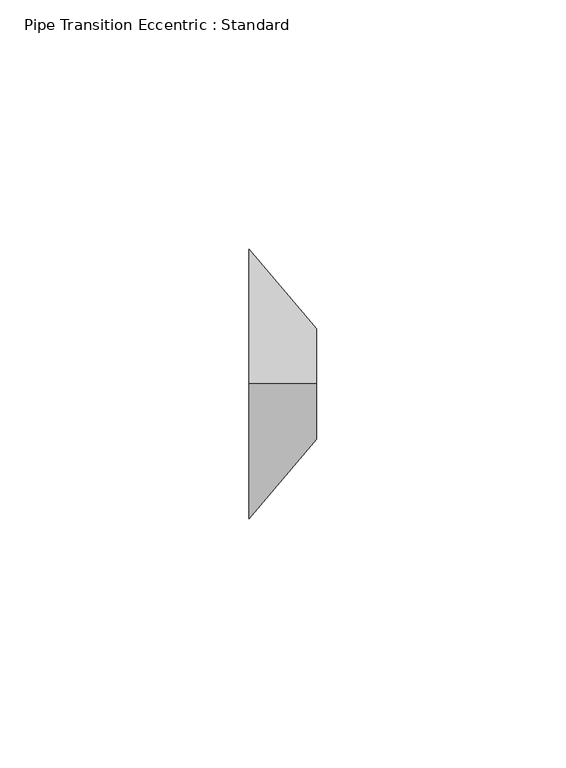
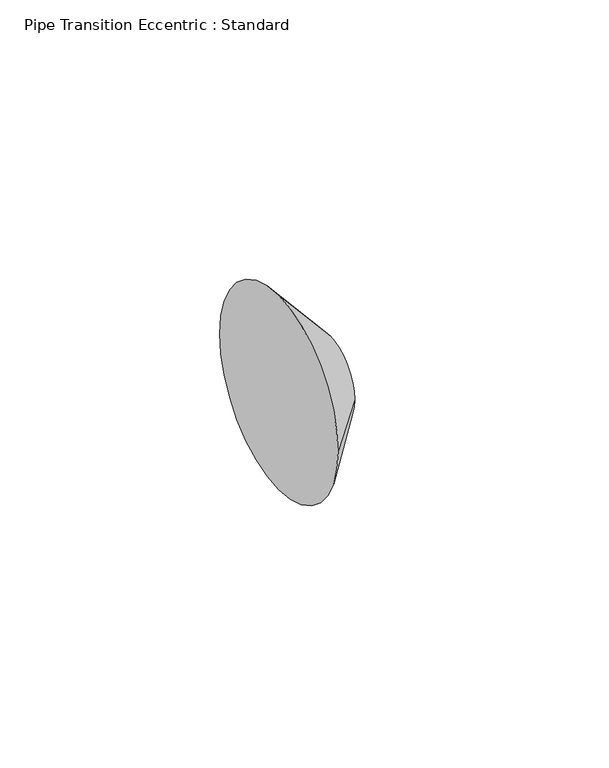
"""IFC4 building model written with IfcOpenShell, lengths in millimetres: pipe fitting geometry, Pipe Transition Eccentric : Standard."""

import ifcopenshell
import ifcopenshell.guid

model = None  # the IFC model being written
_history = None  # IfcOwnerHistory: only IFC2X3 demands one
_inside = {}  # id of a spatial element -> (the spatial element, [elements in it])
_under = {}  # id of a project, library or spatial element -> (it, [spatial elements below it])
_declared = {}  # id of a project -> (the project, [libraries it declares])
_typed = {}  # id of a type object -> (the type object, [elements of that type])
_made_of = {}  # id of a material, layer set ... -> (it, [elements and type objects made of it])


def new_model(schema):
    """Start an empty IFC model of exactly this schema.

    Asked for "IFC4X3", IfcOpenShell would pick the latest addendum, in which some entities
    have other attributes; the version numbers below select the first issue.
    IFC2X3 requires an IfcOwnerHistory on every rooted entity: one is made here for all.
    """
    global model, _history
    if schema == "IFC4X3":
        model = ifcopenshell.file(schema_version=(4, 3, 0, 0))
    else:
        model = ifcopenshell.file(schema=schema)
    _inside.clear()
    _under.clear()
    _declared.clear()
    _typed.clear()
    _made_of.clear()
    _history = None
    if model.schema == "IFC2X3":
        org = make("IfcOrganization", Name="unknown")
        user = make(
            "IfcPersonAndOrganization",
            ThePerson=make("IfcPerson", FamilyName="unknown"),
            TheOrganization=org,
        )
        app = make(
            "IfcApplication",
            ApplicationDeveloper=org,
            Version="unknown",
            ApplicationFullName="unknown",
            ApplicationIdentifier="unknown",
        )
        _history = make(
            "IfcOwnerHistory",
            OwningUser=user,
            OwningApplication=app,
            ChangeAction="ADDED",
            CreationDate=0,
        )
    return model


def make(cls, **values):
    """One entity of the class cls with the attributes given. An attribute that is None is left unset."""
    return model.create_entity(
        cls, **{name: value for name, value in values.items() if value is not None}
    )


def rooted(cls, **values):
    """An entity with a GlobalId (a new one), such as an element, a storey or a relation."""
    return make(cls, GlobalId=ifcopenshell.guid.new(), OwnerHistory=_history, **values)


def si_unit(unit_type, name, prefix=None):
    """IfcSIUnit, for example si_unit("LENGTHUNIT", "METRE", prefix="MILLI")."""
    return make("IfcSIUnit", UnitType=unit_type, Prefix=prefix, Name=name)


def assignment(units):
    """IfcUnitAssignment: the units of a project."""
    return None if units is None else make("IfcUnitAssignment", Units=units)


def point(xyz):
    """IfcCartesianPoint."""
    return None if xyz is None else make("IfcCartesianPoint", Coordinates=xyz)


def direction(xyz):
    """IfcDirection."""
    return None if xyz is None else make("IfcDirection", DirectionRatios=xyz)


def frame(location, z_axis=None, x_axis=None):
    """IfcAxis2Placement3D, a coordinate frame: its origin and axes. An axis left out is left unset."""
    return make(
        "IfcAxis2Placement3D",
        Location=point(location),
        Axis=direction(z_axis),
        RefDirection=direction(x_axis),
    )


def origin():
    """The frame at (0, 0, 0) with its axes left unset."""
    return frame((0.0, 0.0, 0.0))


def place(relative_to, where):
    """IfcLocalPlacement: puts the frame where relative to a parent placement (None: the world)."""
    return make(
        "IfcLocalPlacement", PlacementRelTo=relative_to, RelativePlacement=where
    )


def context(
    kind, dimensions, precision=None, world=None, true_north=None, identifier=None
):
    """IfcGeometricRepresentationContext, for example the 3D "Model" context."""
    return make(
        "IfcGeometricRepresentationContext",
        ContextIdentifier=identifier,
        ContextType=kind,
        CoordinateSpaceDimension=dimensions,
        Precision=precision,
        WorldCoordinateSystem=world,
        TrueNorth=true_north,
    )


def project(units=None, contexts=None):
    """IfcProject with its units and contexts."""
    return rooted(
        "IfcProject",
        Name="project",
        RepresentationContexts=contexts,
        UnitsInContext=assignment(units),
    )


def spatial(cls, under=None, at=None, **own):
    """A site, building, storey or space (cls), placed at a placement, below another one or the project."""
    s = rooted(cls, ObjectPlacement=at, **own)
    if under is not None:
        _under.setdefault(under.id(), (under, []))[1].append(s)
    return s


def polyline(points):
    """IfcPolyline through the points."""
    return make("IfcPolyline", Points=[point(p) for p in points])


def circle_curve(where, radius):
    """IfcCircle in the frame where."""
    return make("IfcCircle", Position=where, Radius=radius)


def shape(context_of_items, identifier, shape_type, items):
    """IfcShapeRepresentation: the items that make up one representation, for example the "Body"."""
    return make(
        "IfcShapeRepresentation",
        ContextOfItems=context_of_items,
        RepresentationIdentifier=identifier,
        RepresentationType=shape_type,
        Items=items,
    )


def source(mapping_origin, context_of_items, identifier, shape_type, items):
    """IfcRepresentationMap: a shape defined once, which mapped items show again and again."""
    return make(
        "IfcRepresentationMap",
        MappingOrigin=mapping_origin,
        MappedRepresentation=shape(context_of_items, identifier, shape_type, items),
    )


def transform(
    local_origin,
    x_axis=None,
    y_axis=None,
    z_axis=None,
    scale=None,
    scale2=None,
    scale3=None,
    uniform=True,
):
    """IfcCartesianTransformationOperator3D, or its non-uniform kind. x_axis, y_axis, z_axis: its Axis1, 2, 3."""
    if uniform:
        return make(
            "IfcCartesianTransformationOperator3D",
            Axis1=direction(x_axis),
            Axis2=direction(y_axis),
            LocalOrigin=point(local_origin),
            Scale=scale,
            Axis3=direction(z_axis),
        )
    return make(
        "IfcCartesianTransformationOperator3DnonUniform",
        Axis1=direction(x_axis),
        Axis2=direction(y_axis),
        LocalOrigin=point(local_origin),
        Scale=scale,
        Axis3=direction(z_axis),
        Scale2=scale2,
        Scale3=scale3,
    )


def mapped(mapping_source, mapping_target):
    """IfcMappedItem: shows the shape of a source again, moved by a transform."""
    return make(
        "IfcMappedItem", MappingSource=mapping_source, MappingTarget=mapping_target
    )


def made_of(thing, what):
    """Note that an element or type object is made of a material, layer set ...; save() writes the relation."""
    if what is not None:
        _made_of.setdefault(what.id(), (what, []))[1].append(thing)
    return thing


def element(
    cls,
    number,
    at=None,
    inside=None,
    cuts=None,
    type_object=None,
    material=None,
    context=None,
    identifier="Body",
    shape_type=None,
    held_by="IfcProductDefinitionShape",
    body=None,
    shapes=None,
    **own,
):
    """One element of the class cls, such as IfcWall. Its Tag is "e" and its number.

    at: its placement. inside: the storey or other place that contains it. cuts: it is an
    opening in that element (IfcRelVoidsElement). A single representation is given by context,
    identifier, shape_type and body (its items); several are given by shapes. held_by: the class
    of the entity that holds the representations. save() writes the other relations.
    """
    e = rooted(cls, Tag="e%d" % number, ObjectPlacement=at, **own)
    if body is not None:
        shapes = [shape(context, identifier, shape_type, body)]
    if shapes is not None:
        e.Representation = make(held_by, Representations=shapes)
    if inside is not None:
        _inside.setdefault(inside.id(), (inside, []))[1].append(e)
    if cuts is not None:
        rooted(
            "IfcRelVoidsElement", RelatingBuildingElement=cuts, RelatedOpeningElement=e
        )
    if type_object is not None:
        _typed.setdefault(type_object.id(), (type_object, []))[1].append(e)
    return made_of(e, material)


def aggregate(whole, parts):
    """IfcRelAggregates: a whole, such as a stair, and the parts it consists of."""
    return rooted("IfcRelAggregates", RelatingObject=whole, RelatedObjects=parts)


def save(model, path):
    """Write the relations noted so far, then the file.

    IfcRelAggregates (storeys below a building ...), IfcRelContainedInSpatialStructure (elements
    in a storey), IfcRelDefinesByType, IfcRelAssociatesMaterial and IfcRelDeclares: one each for
    every whole, place, type object, material and project.
    """
    for whole, parts in _under.values():
        aggregate(whole, parts)
    for where, things in _inside.values():
        rooted(
            "IfcRelContainedInSpatialStructure",
            RelatedElements=things,
            RelatingStructure=where,
        )
    for kind, things in _typed.values():
        rooted("IfcRelDefinesByType", RelatedObjects=things, RelatingType=kind)
    for what, things in _made_of.values():
        rooted("IfcRelAssociatesMaterial", RelatedObjects=things, RelatingMaterial=what)
    for by, libraries in _declared.values():
        rooted("IfcRelDeclares", RelatingContext=by, RelatedDefinitions=libraries)
    model.write(path)


def plane_surface(at):
    """IfcPlane: the flat surface through the origin of the frame at, square to its z axis."""
    return make("IfcPlane", Position=at)


def revolved_surface(curve, axis_point, axis_direction):
    """IfcSurfaceOfRevolution: the curve turned about the line through axis_point along axis_direction."""
    return make(
        "IfcSurfaceOfRevolution",
        SweptCurve=make("IfcArbitraryOpenProfileDef", ProfileType="CURVE", Curve=curve),
        AxisPosition=make("IfcAxis1Placement", Location=point(axis_point), Axis=direction(axis_direction)),
    )


def advanced_brep(points, edges, surfaces, faces):
    """IfcAdvancedBrep: a solid bounded by faces that lie on surfaces and meet in shared edges.

    An edge is (start, end): straight between two places in points (the first is 0);
    or (start, end, curve); or (start, end, curve, False) where it runs against its curve.
    A face is (place in surfaces, loops), or (place, loops, False) where it looks against
    its surface's normal. A loop lists edges by number (the first is 1), with a minus sign
    where the edge is run from its end to its start. The first loop is the outer one.
    """
    corners = [point(p) for p in points]
    vertices = [make("IfcVertexPoint", VertexGeometry=c) for c in corners]
    made = []
    for start, end, *more in edges:
        made.append(
            make(
                "IfcEdgeCurve",
                EdgeStart=vertices[start],
                EdgeEnd=vertices[end],
                EdgeGeometry=more[0] if more else make("IfcPolyline", Points=[corners[start], corners[end]]),
                SameSense=more[1] if len(more) > 1 else True,
            )
        )
    hull = []
    for where, loops, *sense in faces:
        bounds = []
        for j, loop in enumerate(loops):
            ring = [make("IfcOrientedEdge", EdgeElement=made[abs(k) - 1], Orientation=k > 0) for k in loop]
            bounds.append(
                make(
                    "IfcFaceOuterBound" if j == 0 else "IfcFaceBound",
                    Bound=make("IfcEdgeLoop", EdgeList=ring),
                    Orientation=True,
                )
            )
        hull.append(make("IfcAdvancedFace", Bounds=bounds, FaceSurface=surfaces[where], SameSense=sense[0] if sense else True))
    return make("IfcAdvancedBrep", Outer=make("IfcClosedShell", CfsFaces=hull))


def pipe_transition_eccentric_standard_2e591508(model_context):
    return source(origin(), model_context, "Body", "AdvancedBrep", [
        advanced_brep(
        [(13.49375, 0.0, 11.1125), (13.49375, -11.1125, 0.0), (13.49375, 0.0, -11.1125), (13.49375, 11.1125, 0.0), (0.0, 0.0, 26.9875), (0.0, 26.9875, 0.0), (0.0, 0.0, -26.9875), (0.0, -26.9875, 0.0)],
        [
            (0, 1, circle_curve(frame((13.49375, 0.0, 0.0), z_axis=(1.0, 0.0, 0.0), x_axis=(0.0, 0.0, 1.0)), 11.1125)),
            (1, 2, circle_curve(frame((13.49375, 0.0, 0.0), z_axis=(1.0, 0.0, 0.0), x_axis=(0.0, -1.0, 0.0)), 11.1125)),
            (2, 3, circle_curve(frame((13.49375, 0.0, 0.0), z_axis=(1.0, 0.0, 0.0), x_axis=(0.0, 0.0, -1.0)), 11.1125)),
            (3, 0, circle_curve(frame((13.49375, 0.0, 0.0), z_axis=(1.0, 0.0, 0.0), x_axis=(0.0, 1.0, 0.0)), 11.1125)),
            (4, 5, circle_curve(frame((0.0, 0.0, 0.0), z_axis=(-1.0, 0.0, 0.0), x_axis=(0.0, 1.0, 0.0)), 26.9875)),
            (5, 6, circle_curve(frame((0.0, 0.0, 0.0), z_axis=(-1.0, 0.0, 0.0), x_axis=(0.0, 0.0, -1.0)), 26.9875)),
            (6, 7, circle_curve(frame((0.0, 0.0, 0.0), z_axis=(-1.0, 0.0, 0.0), x_axis=(0.0, -1.0, 0.0)), 26.9875)),
            (7, 4, circle_curve(frame((0.0, 0.0, 0.0), z_axis=(-1.0, 0.0, 0.0), x_axis=(0.0, 0.0, 1.0)), 26.9875)),
            (7, 1),
            (0, 4),
            (6, 2),
            (5, 3),
        ],
        [
            plane_surface(frame((13.49375, 0.0, 0.0), z_axis=(1.0, 0.0, 0.0), x_axis=(0.0, -1.0, 0.0))),
            plane_surface(frame((0.0, 0.0, 0.0), z_axis=(-1.0, 0.0, 0.0), x_axis=(0.0, -1.0, 0.0))),
            revolved_surface(polyline([(13.49375, 0.0, 11.112499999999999), (0.0, 0.0, 26.9875)]), (22.939375, 0.0, 0.0), (-1.0, 0.0, 0.0)),
            revolved_surface(polyline([(13.49375, -11.112499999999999, 0.0), (0.0, -26.9875, 0.0)]), (22.939375, 0.0, 0.0), (-1.0, 0.0, 0.0)),
            revolved_surface(polyline([(13.49375, 0.0, -11.112499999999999), (0.0, 0.0, -26.9875)]), (22.939375, 0.0, 0.0), (-1.0, 0.0, 0.0)),
            revolved_surface(polyline([(13.49375, 11.112499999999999, 0.0), (0.0, 26.9875, 0.0)]), (22.939375, 0.0, 0.0), (-1.0, 0.0, 0.0)),
        ],
        [
            (0, [[1, 2, 3, 4]]),
            (1, [[5, 6, 7, 8]]),
            (2, [[-8, 9, -1, 10]]),
            (3, [[-7, 11, -2, -9]]),
            (4, [[-6, 12, -3, -11]]),
            (5, [[-5, -10, -4, -12]]),
        ],
    ),
        advanced_brep(
        [(13.49375, 0.0, 11.1125), (13.49375, -11.1125, 0.0), (13.49375, 0.0, -11.1125), (13.49375, 11.1125, 0.0), (0.0, 0.0, 26.9875), (0.0, 26.9875, 0.0), (0.0, 0.0, -26.9875), (0.0, -26.9875, 0.0)],
        [
            (0, 1, circle_curve(frame((13.49375, 0.0, 0.0), z_axis=(1.0, 0.0, 0.0), x_axis=(0.0, 0.0, 1.0)), 11.1125)),
            (1, 2, circle_curve(frame((13.49375, 0.0, 0.0), z_axis=(1.0, 0.0, 0.0), x_axis=(0.0, -1.0, 0.0)), 11.1125)),
            (2, 3, circle_curve(frame((13.49375, 0.0, 0.0), z_axis=(1.0, 0.0, 0.0), x_axis=(0.0, 0.0, -1.0)), 11.1125)),
            (3, 0, circle_curve(frame((13.49375, 0.0, 0.0), z_axis=(1.0, 0.0, 0.0), x_axis=(0.0, 1.0, 0.0)), 11.1125)),
            (4, 5, circle_curve(frame((0.0, 0.0, 0.0), z_axis=(-1.0, 0.0, 0.0), x_axis=(0.0, 1.0, 0.0)), 26.9875)),
            (5, 6, circle_curve(frame((0.0, 0.0, 0.0), z_axis=(-1.0, 0.0, 0.0), x_axis=(0.0, 0.0, -1.0)), 26.9875)),
            (6, 7, circle_curve(frame((0.0, 0.0, 0.0), z_axis=(-1.0, 0.0, 0.0), x_axis=(0.0, -1.0, 0.0)), 26.9875)),
            (7, 4, circle_curve(frame((0.0, 0.0, 0.0), z_axis=(-1.0, 0.0, 0.0), x_axis=(0.0, 0.0, 1.0)), 26.9875)),
            (7, 1),
            (0, 4),
            (6, 2),
            (5, 3),
        ],
        [
            plane_surface(frame((13.49375, 0.0, 0.0), z_axis=(1.0, 0.0, 0.0), x_axis=(0.0, -1.0, 0.0))),
            plane_surface(frame((0.0, 0.0, 0.0), z_axis=(-1.0, 0.0, 0.0), x_axis=(0.0, -1.0, 0.0))),
            revolved_surface(polyline([(13.49375, 0.0, 11.112499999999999), (0.0, 0.0, 26.9875)]), (22.939375, 0.0, 0.0), (-1.0, 0.0, 0.0)),
            revolved_surface(polyline([(13.49375, -11.112499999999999, 0.0), (0.0, -26.9875, 0.0)]), (22.939375, 0.0, 0.0), (-1.0, 0.0, 0.0)),
            revolved_surface(polyline([(13.49375, 0.0, -11.112499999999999), (0.0, 0.0, -26.9875)]), (22.939375, 0.0, 0.0), (-1.0, 0.0, 0.0)),
            revolved_surface(polyline([(13.49375, 11.112499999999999, 0.0), (0.0, 26.9875, 0.0)]), (22.939375, 0.0, 0.0), (-1.0, 0.0, 0.0)),
        ],
        [
            (0, [[1, 2, 3, 4]]),
            (1, [[5, 6, 7, 8]]),
            (2, [[-8, 9, -1, 10]]),
            (3, [[-7, 11, -2, -9]]),
            (4, [[-6, 12, -3, -11]]),
            (5, [[-5, -10, -4, -12]]),
        ],
    ),
    ])


if __name__ == "__main__":
    model = new_model("IFC4")
    model_context = context("Model", 3, world=origin())
    ifc_project = project(units=[si_unit("LENGTHUNIT", "METRE", prefix="MILLI")], contexts=[model_context])
    site = spatial("IfcSite", under=ifc_project)
    building = spatial("IfcBuilding", under=site)
    placement = place(None, origin())
    pipe_transition_eccentric_standard_shape = pipe_transition_eccentric_standard_2e591508(model_context)
    element("IfcPipeFitting", 1, ObjectType="Pipe Transition Eccentric : Standard", at=placement, inside=building, context=model_context, shape_type="MappedRepresentation", body=[
        mapped(pipe_transition_eccentric_standard_shape, transform((0.0, 0.0, 0.0), x_axis=(1.0, 0.0, 0.0), y_axis=(0.0, 1.0, 0.0), z_axis=(0.0, 0.0, 1.0))),
    ])
    save(model, "model.ifc")
